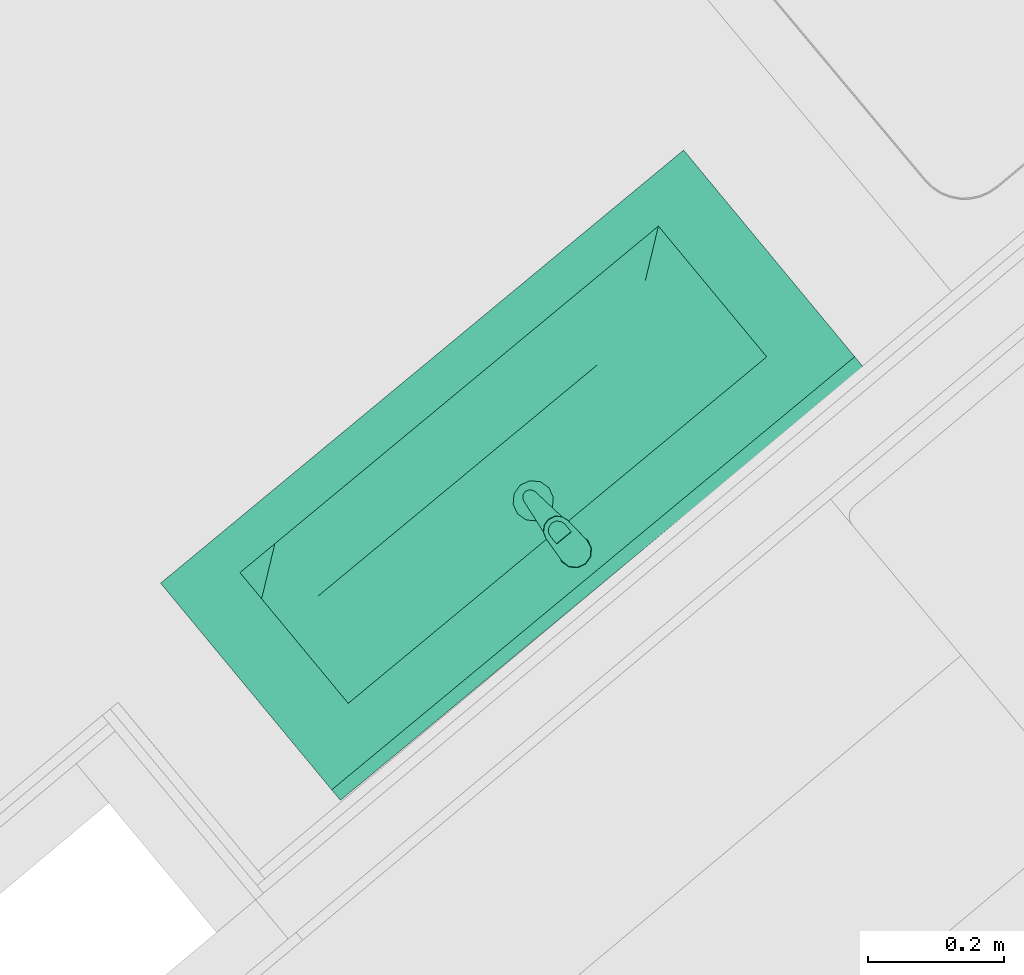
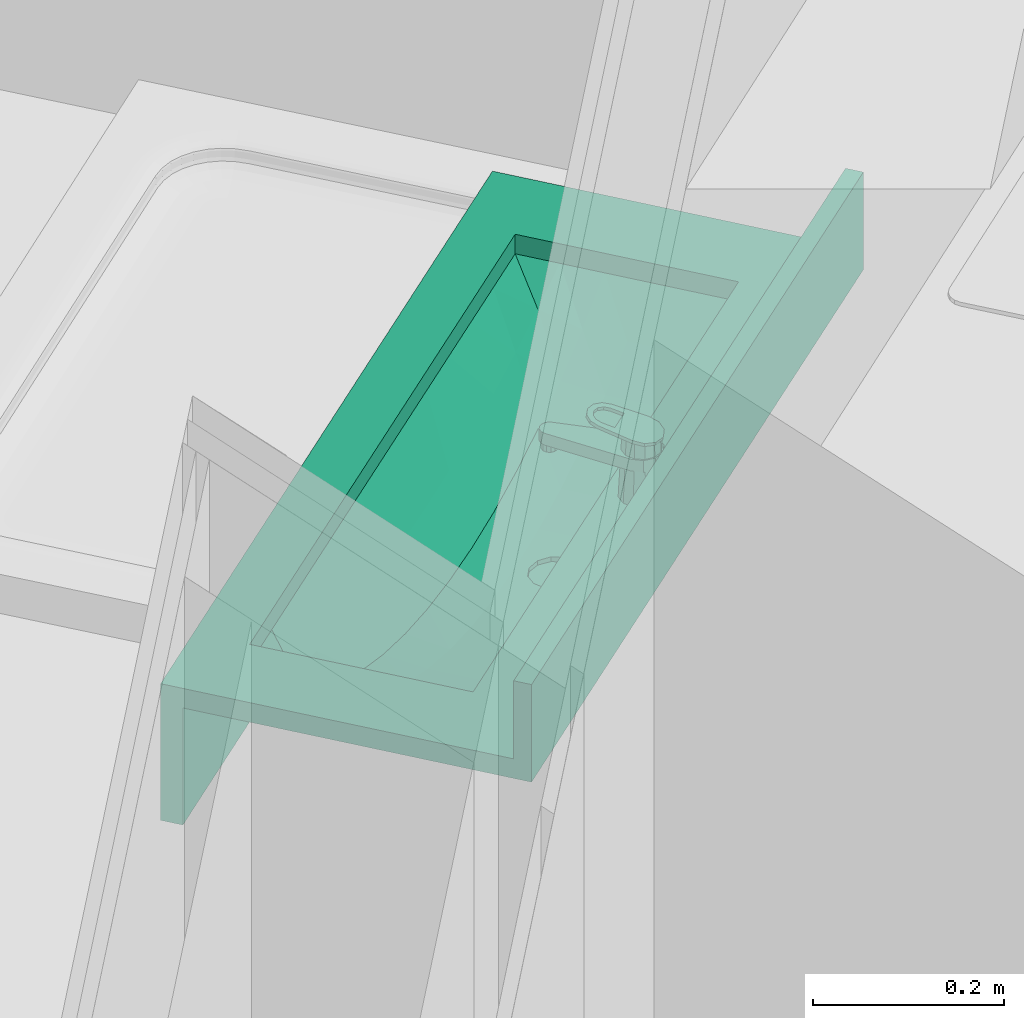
# One storey, part 62 of 67: 1 sanitary terminal.
"""IFC4 building model written with IfcOpenShell, lengths in metres."""

from ifc_helpers import new_model, entity, si_unit, converted_unit, derived_unit, direction, frame, origin_with_axes, place, context, subcontext, project, spatial, polygons, source, transform, mapped, type_object, element, save


model = new_model("IFC4")

# Units and contexts
model_context = context("Model", 3, precision=1e-05, world=origin_with_axes(), true_north=direction((0.0, 1.0)))
body_context = subcontext(model_context, "Body", "Model", "MODEL_VIEW")
ifc_project = project(units=[si_unit("LENGTHUNIT", "METRE"), si_unit("AREAUNIT", "SQUARE_METRE"), si_unit("VOLUMEUNIT", "CUBIC_METRE"), converted_unit("PLANEANGLEUNIT", "DEGREE", entity("IfcPlaneAngleMeasure", 0.0174532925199), si_unit("PLANEANGLEUNIT", "RADIAN"), dimensions=[0, 0, 0, 0, 0, 0, 0]), converted_unit("TIMEUNIT", "Year", entity("IfcTimeMeasure", 31556926.0), si_unit("TIMEUNIT", "SECOND"), dimensions=[0, 0, 1, 0, 0, 0, 0]), si_unit("MASSUNIT", "GRAM", prefix="KILO"), si_unit("THERMODYNAMICTEMPERATUREUNIT", "DEGREE_CELSIUS"), si_unit("LUMINOUSINTENSITYUNIT", "LUMEN"), si_unit("ENERGYUNIT", "JOULE", prefix="MEGA"), derived_unit("THERMALCONDUCTANCEUNIT", [(si_unit("POWERUNIT", "WATT"), 1), (si_unit("LENGTHUNIT", "METRE"), -1), (si_unit("THERMODYNAMICTEMPERATUREUNIT", "KELVIN"), -1)]), derived_unit("SPECIFICHEATCAPACITYUNIT", [(si_unit("ENERGYUNIT", "JOULE"), 1), (si_unit("MASSUNIT", "GRAM", prefix="KILO"), -1), (si_unit("THERMODYNAMICTEMPERATUREUNIT", "KELVIN"), -1)]), derived_unit("MASSDENSITYUNIT", [(si_unit("MASSUNIT", "GRAM", prefix="KILO"), 1), (si_unit("VOLUMEUNIT", "CUBIC_METRE"), -1)])], contexts=[model_context])

# Site, building, storey
site_placement = place(None, frame((-0.00153261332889, -0.00661245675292, 0.0), z_axis=(0.0, 0.0, 1.0), x_axis=(1.0, 0.0, 0.0)))
site = spatial("IfcSite", under=ifc_project, at=site_placement, Name="Site", CompositionType="ELEMENT")
building_placement = place(site_placement, origin_with_axes())
building = spatial("IfcBuilding", under=site, at=building_placement, Name="Building", CompositionType="ELEMENT")
storey_placement = place(building_placement, frame((0.0, 0.0, -0.22), z_axis=(0.0, 0.0, 1.0), x_axis=(1.0, 0.0, 0.0)))
storey = spatial("IfcBuildingStorey", under=building, at=storey_placement, Name="EG", CompositionType="ELEMENT", Elevation=-0.22)

# Sanitary terminal
sanitary_terminal_type = type_object("IfcSanitaryTerminalType", Name="Waschbecken mehrfach 26", PredefinedType="NOTDEFINED")
shared_shape = source(origin_with_axes(), body_context, "Body", "Tessellation", [
    polygons([(-0.5, 0.0, 0.875), (0.5, 0.0, 0.875), (0.5, -0.415119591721, 0.875), (-0.5, -0.415119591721, 0.875), (-0.4, -0.35255979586, 0.875), (0.4, -0.35255979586, 0.875), (0.4, -0.10255979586, 0.875), (-0.4, -0.10255979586, 0.875), (-0.5, 0.0, 0.9), (0.5, 0.0, 0.9), (0.5, -0.415119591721, 0.9), (-0.5, -0.415119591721, 0.9), (-0.4, -0.35255979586, 0.9), (0.4, -0.35255979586, 0.9), (0.4, -0.10255979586, 0.9), (-0.4, -0.10255979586, 0.9)], [[[1, 2, 3, 4], [5, 6, 7, 8]], [[1, 9, 10, 2]], [[2, 10, 11, 3]], [[3, 11, 12, 4]], [[4, 12, 9, 1]], [[13, 14, 6, 5]], [[14, 15, 7, 6]], [[15, 16, 8, 7]], [[16, 13, 5, 8]], [[11, 10, 9, 12], [13, 16, 15, 14]]], closed=True),
    polygons([(-0.5, -0.02, 0.9), (0.5, -0.02, 0.9), (0.5, -0.02, 1.0), (-0.5, -0.02, 1.0), (-0.5, 0.0, 0.9), (0.5, 0.0, 0.9), (0.5, 0.0, 1.0), (-0.5, 0.0, 1.0)], [[[1, 2, 3, 4]], [[1, 5, 6, 2]], [[2, 6, 7, 3]], [[4, 3, 7, 8]], [[5, 1, 4, 8]], [[6, 5, 8, 7]]], closed=True),
    polygons([(-0.5, -0.415119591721, 0.725), (0.5, -0.415119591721, 0.725), (0.5, -0.415119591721, 0.875), (-0.5, -0.415119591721, 0.875), (-0.5, -0.390119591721, 0.725), (0.5, -0.390119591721, 0.725), (0.5, -0.390119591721, 0.875), (-0.5, -0.390119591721, 0.875)], [[[1, 2, 3, 4]], [[1, 5, 6, 2]], [[2, 6, 7, 3]], [[4, 3, 7, 8]], [[5, 1, 4, 8]], [[6, 5, 8, 7]]], closed=True),
    polygons([(0.0, -0.18855104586, 0.775), (-0.015, -0.184531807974, 0.775589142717), (-0.0259807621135, -0.17355104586, 0.776020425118), (-0.03, -0.15855104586, 0.776178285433), (-0.0283946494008, -0.15255979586, 0.776115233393), (-0.0666666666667, -0.15255979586, 0.777618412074), (-0.0666666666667, -0.20255979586, 0.777618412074), (0.0, -0.20255979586, 0.775), (-0.015, -0.132570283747, 0.775589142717), (0.0, -0.12855104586, 0.775), (0.0, -0.10255979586, 0.775), (-0.0666666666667, -0.10255979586, 0.777618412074), (-0.0259807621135, -0.14355104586, 0.776020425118), (-0.133333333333, -0.15255979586, 0.785522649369), (-0.133333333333, -0.20255979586, 0.785522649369), (-0.0666666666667, -0.25255979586, 0.787498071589), (0.0666666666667, -0.15255979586, 0.777618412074), (0.0283946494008, -0.15255979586, 0.776115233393), (0.03, -0.15855104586, 0.776178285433), (0.0259807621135, -0.17355104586, 0.776020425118), (0.015, -0.184531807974, 0.775589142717), (0.0666666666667, -0.20255979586, 0.777618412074), (0.015, -0.132570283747, 0.775589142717), (0.0259807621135, -0.14355104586, 0.776020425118), (0.0666666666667, -0.10255979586, 0.777618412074), (0.2, -0.10255979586, 0.798864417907), (0.266666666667, -0.10255979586, 0.81791333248), (0.333333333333, -0.10255979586, 0.843086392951), (0.4, -0.10255979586, 0.875), (-0.4, -0.10255979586, 0.875), (-0.333333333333, -0.10255979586, 0.843086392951), (-0.266666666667, -0.10255979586, 0.81791333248), (-0.2, -0.10255979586, 0.798864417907), (-0.133333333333, -0.10255979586, 0.785522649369), (0.133333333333, -0.10255979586, 0.785522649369), (-0.2, -0.15255979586, 0.798864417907), (-0.2, -0.20255979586, 0.798864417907), (-0.133333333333, -0.25255979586, 0.794673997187), (0.0, -0.25255979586, 0.785118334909), (0.133333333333, -0.20255979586, 0.785522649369), (0.133333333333, -0.15255979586, 0.785522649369), (0.266666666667, -0.15255979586, 0.81791333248), (0.2, -0.15255979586, 0.798864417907), (0.333333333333, -0.15255979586, 0.843086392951), (0.4, -0.15255979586, 0.875), (-0.333333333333, -0.15255979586, 0.843086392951), (-0.4, -0.15255979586, 0.875), (-0.266666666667, -0.15255979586, 0.81791333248), (-0.266666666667, -0.20255979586, 0.81791333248), (-0.2, -0.25255979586, 0.80675915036), (-0.0666666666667, -0.30255979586, 0.828578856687), (-0.133333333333, -0.30255979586, 0.832507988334), (0.0666666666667, -0.25255979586, 0.787498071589), (0.2, -0.20255979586, 0.798864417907), (0.266666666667, -0.20255979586, 0.81791333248), (0.333333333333, -0.20255979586, 0.843086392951), (0.4, -0.20255979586, 0.875), (0.4, -0.25255979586, 0.875), (0.4, -0.30255979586, 0.875), (0.4, -0.35255979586, 0.875), (-0.4, -0.25255979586, 0.875), (-0.4, -0.20255979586, 0.875), (-0.4, -0.35255979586, 0.875), (-0.4, -0.30255979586, 0.875), (-0.333333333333, -0.20255979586, 0.843086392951), (-0.266666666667, -0.25255979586, 0.823952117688), (-0.2, -0.30255979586, 0.839076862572), (0.0, -0.30255979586, 0.827271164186), (0.133333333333, -0.25255979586, 0.794673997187), (0.2, -0.25255979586, 0.80675915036), (0.266666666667, -0.25255979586, 0.823952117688), (0.333333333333, -0.25255979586, 0.846554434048), (0.333333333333, -0.30255979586, 0.860271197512), (0.333333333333, -0.35255979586, 0.875), (-0.333333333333, -0.30255979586, 0.860271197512), (-0.333333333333, -0.25255979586, 0.846554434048), (-0.266666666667, -0.30255979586, 0.848316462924), (-0.0666666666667, -0.35255979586, 0.875), (-0.133333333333, -0.35255979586, 0.875), (-0.2, -0.35255979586, 0.875), (0.0666666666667, -0.30255979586, 0.828578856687), (-0.266666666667, -0.35255979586, 0.875), (-0.333333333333, -0.35255979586, 0.875), (0.266666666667, -0.35255979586, 0.875), (0.2, -0.35255979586, 0.875), (0.133333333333, -0.35255979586, 0.875), (0.0666666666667, -0.35255979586, 0.875), (0.0, -0.35255979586, 0.875), (0.133333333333, -0.30255979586, 0.832507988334), (0.2, -0.30255979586, 0.839076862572), (0.266666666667, -0.30255979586, 0.848316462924)], [[[1, 2, 3, 4, 5, 6, 7, 8]], [[9, 10, 11, 12, 6, 5, 13]], [[7, 6, 14, 15]], [[16, 8, 7]], [[17, 18, 19, 20, 21, 1, 8, 22]], [[10, 23, 24, 18, 17, 25, 11]], [[26, 27, 28, 29, 30, 31, 32, 33, 34, 12, 11, 25, 35]], [[6, 12, 34, 14]], [[15, 14, 36, 37]], [[38, 7, 15]], [[16, 39, 8]], [[38, 16, 7]], [[39, 22, 8]], [[40, 41, 17, 22]], [[41, 35, 25, 17]], [[42, 27, 26, 43]], [[44, 28, 27, 42]], [[45, 29, 28, 44]], [[46, 31, 30, 47]], [[48, 32, 31, 46]], [[36, 33, 32, 48]], [[14, 34, 33, 36]], [[43, 26, 35, 41]], [[37, 36, 48, 49]], [[50, 15, 37]], [[50, 38, 15]], [[51, 39, 16]], [[52, 16, 38]], [[39, 53, 22]], [[54, 43, 41, 40]], [[53, 40, 22]], [[55, 42, 43, 54]], [[56, 44, 42, 55]], [[57, 58, 59, 60, 29, 45]], [[57, 45, 44, 56]], [[61, 62, 47, 30, 63, 64]], [[65, 46, 47, 62]], [[49, 48, 46, 65]], [[66, 37, 49]], [[66, 50, 37]], [[67, 38, 50]], [[51, 68, 39]], [[52, 51, 16]], [[67, 52, 38]], [[68, 53, 39]], [[69, 54, 40]], [[53, 69, 40]], [[70, 55, 54]], [[71, 56, 55]], [[72, 58, 57]], [[73, 59, 58]], [[74, 60, 59]], [[72, 57, 56]], [[61, 65, 62]], [[63, 75, 64]], [[64, 76, 61]], [[76, 49, 65]], [[76, 66, 49]], [[77, 50, 66]], [[77, 67, 50]], [[78, 68, 51]], [[79, 51, 52]], [[80, 52, 67]], [[68, 81, 53]], [[69, 70, 54]], [[81, 69, 53]], [[70, 71, 55]], [[71, 72, 56]], [[73, 58, 72]], [[74, 59, 73]], [[80, 82, 83, 63, 60, 74, 84, 85, 86, 87, 88, 78, 79]], [[61, 76, 65]], [[63, 83, 75]], [[64, 75, 76]], [[75, 66, 76]], [[75, 77, 66]], [[82, 67, 77]], [[78, 88, 68]], [[79, 78, 51]], [[80, 79, 52]], [[82, 80, 67]], [[88, 81, 68]], [[89, 70, 69]], [[81, 89, 69]], [[90, 71, 70]], [[91, 72, 71]], [[91, 73, 72]], [[84, 74, 73]], [[83, 82, 77]], [[85, 84, 91]], [[86, 85, 90]], [[87, 86, 89]], [[88, 87, 81]], [[83, 77, 75]], [[89, 90, 70]], [[87, 89, 81]], [[90, 91, 71]], [[84, 73, 91]], [[85, 91, 90]], [[86, 90, 89]]], closed=False),
    polygons([(0.03, -0.15855104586, 0.776178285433), (0.0259807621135, -0.17355104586, 0.776020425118), (0.0259807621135, -0.17355104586, 0.77), (0.03, -0.15855104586, 0.77), (0.015, -0.184531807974, 0.775589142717), (0.015, -0.184531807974, 0.77), (0.0, -0.12855104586, 0.77), (0.015, -0.132570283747, 0.77), (0.0259807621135, -0.14355104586, 0.77), (0.0, -0.18855104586, 0.77), (-0.015, -0.184531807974, 0.77), (-0.0259807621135, -0.17355104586, 0.77), (-0.03, -0.15855104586, 0.77), (-0.0259807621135, -0.14355104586, 0.77), (-0.015, -0.132570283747, 0.77), (0.0259807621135, -0.14355104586, 0.776020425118), (0.0, -0.18855104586, 0.775), (0.0, -0.12855104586, 0.775), (0.015, -0.132570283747, 0.775589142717), (-0.015, -0.184531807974, 0.775589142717), (-0.0259807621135, -0.17355104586, 0.776020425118), (-0.03, -0.15855104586, 0.776178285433), (-0.0259807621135, -0.14355104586, 0.776020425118), (-0.015, -0.132570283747, 0.775589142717)], [[[1, 2, 3, 4]], [[2, 5, 6, 3]], [[7, 8, 9, 4, 3, 6, 10, 11, 12, 13, 14, 15]], [[16, 1, 4, 9]], [[5, 17, 10, 6]], [[18, 19, 8, 7]], [[19, 16, 9, 8]], [[17, 20, 11, 10]], [[20, 21, 12, 11]], [[21, 22, 13, 12]], [[22, 23, 14, 13]], [[23, 24, 15, 14]], [[24, 18, 7, 15]]], closed=False),
    polygons([(0.0125, -0.0409091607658, 0.9), (0.0, -0.0375597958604, 0.9), (0.0, -0.0413578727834, 0.975961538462), (0.0105873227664, -0.0442220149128, 0.976507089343), (0.0216506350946, -0.0500597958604, 0.9), (0.025, -0.0625597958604, 0.9), (0.0216506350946, -0.0750597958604, 0.9), (0.0125, -0.084210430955, 0.9), (0.0, -0.0875597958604, 0.9), (-0.0125, -0.084210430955, 0.9), (-0.0216506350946, -0.0750597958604, 0.9), (-0.025, -0.0625597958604, 0.9), (-0.0216506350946, -0.0500597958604, 0.9), (-0.0125, -0.0409091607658, 0.9), (-0.0105873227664, -0.0442220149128, 0.976507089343), (-0.0182735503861, -0.0520095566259, 0.977990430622), (-0.021, -0.0625597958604, 0.98), (-0.0181003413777, -0.0730100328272, 0.981990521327), (-0.0104141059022, -0.0805975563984, 0.983435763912), (0.0, -0.0833616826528, 0.983962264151), (0.0104141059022, -0.0805975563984, 0.983435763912), (0.0181003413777, -0.0730100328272, 0.981990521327), (0.021, -0.0625597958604, 0.98), (0.0182735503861, -0.0520095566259, 0.977990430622)], [[[1, 2, 3, 4]], [[1, 5, 6, 7, 8, 9, 10, 11, 12, 13, 14, 2]], [[2, 14, 15, 3]], [[4, 3, 15, 16, 17, 18, 19, 20, 21, 22, 23, 24]], [[5, 1, 4, 24]], [[6, 5, 24, 23]], [[7, 6, 23, 22]], [[8, 7, 22, 21]], [[9, 8, 21, 20]], [[10, 9, 20, 19]], [[11, 10, 19, 18]], [[12, 11, 18, 17]], [[13, 12, 17, 16]], [[14, 13, 16, 15]]], closed=True),
    polygons([(0.009, -0.16555979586, 0.935), (0.00779422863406, -0.16105979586, 0.935), (0.00779422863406, -0.16105979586, 0.945), (0.009, -0.16555979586, 0.945), (0.00779422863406, -0.17005979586, 0.935), (0.0045, -0.173354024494, 0.935), (0.0, -0.17455979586, 0.935), (-0.0045, -0.173354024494, 0.935), (-0.00779422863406, -0.17005979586, 0.935), (-0.009, -0.16555979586, 0.935), (-0.00779422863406, -0.16105979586, 0.935), (-0.0045, -0.157765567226, 0.935), (0.0, -0.15655979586, 0.935), (0.0045, -0.157765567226, 0.935), (0.0045, -0.157765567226, 0.945), (0.0, -0.15655979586, 0.945), (-0.0045, -0.157765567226, 0.945), (-0.00779422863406, -0.16105979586, 0.945), (-0.009, -0.16555979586, 0.945), (-0.00779422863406, -0.17005979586, 0.945), (-0.0045, -0.173354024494, 0.945), (0.0, -0.17455979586, 0.945), (0.0045, -0.173354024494, 0.945), (0.00779422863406, -0.17005979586, 0.945)], [[[1, 2, 3, 4]], [[1, 5, 6, 7, 8, 9, 10, 11, 12, 13, 14, 2]], [[2, 14, 15, 3]], [[4, 3, 15, 16, 17, 18, 19, 20, 21, 22, 23, 24]], [[5, 1, 4, 24]], [[6, 5, 24, 23]], [[7, 6, 23, 22]], [[8, 7, 22, 21]], [[9, 8, 21, 20]], [[10, 9, 20, 19]], [[11, 10, 19, 18]], [[12, 11, 18, 17]], [[13, 12, 17, 16]], [[14, 13, 16, 15]]], closed=True),
    polygons([(-0.0128717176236, -0.0423034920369, 0.96), (-0.021727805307, -0.0523665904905, 0.96), (-0.0238054, -0.0656096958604, 0.96), (-0.010911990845, -0.166948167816, 0.96), (-0.00902887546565, -0.17184299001, 0.96), (-0.00509332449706, -0.175309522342, 0.96), (3.62679860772e-08, -0.176559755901, 0.96), (0.00509338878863, -0.175309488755, 0.96), (0.00902891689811, -0.171842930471, 0.96), (0.010912, -0.16694809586, 0.96), (0.0238053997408, -0.0656096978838, 0.96), (0.0217278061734, -0.0523665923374, 0.96), (0.0128717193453, -0.042303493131, 0.96), (1.01998896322e-09, -0.0385598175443, 0.96), (0.011, -0.0435072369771, 0.96), (0.0190525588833, -0.0515597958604, 0.96), (0.022, -0.0625597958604, 0.96), (0.0190525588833, -0.0735597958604, 0.96), (0.011, -0.0816123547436, 0.96), (0.0, -0.0845597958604, 0.96), (-0.011, -0.0816123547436, 0.96), (-0.0190525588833, -0.0735597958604, 0.96), (-0.022, -0.0625597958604, 0.96), (-0.0190525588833, -0.0515597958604, 0.96), (-0.011, -0.0435072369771, 0.96), (0.0, -0.0405597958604, 0.96), (-0.021727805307, -0.0523665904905, 0.945), (-0.0128717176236, -0.0423034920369, 0.945), (-0.0238054, -0.0656096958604, 0.945), (-0.010911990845, -0.166948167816, 0.945), (-0.00902887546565, -0.17184299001, 0.945), (-0.00509332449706, -0.175309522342, 0.945), (3.62679860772e-08, -0.176559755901, 0.945), (0.00509338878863, -0.175309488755, 0.945), (0.00902891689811, -0.171842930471, 0.945), (0.010912, -0.16694809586, 0.945), (0.0238053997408, -0.0656096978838, 0.945), (0.0217278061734, -0.0523665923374, 0.945), (0.0128717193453, -0.042303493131, 0.945), (1.01998896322e-09, -0.0385598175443, 0.945), (0.011375, -0.0428577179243, 0.945), (0.0197020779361, -0.0511847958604, 0.945), (0.02275, -0.0625597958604, 0.945), (0.0197020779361, -0.0739347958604, 0.945), (0.011375, -0.0822618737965, 0.945), (0.0, -0.0853097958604, 0.945), (-0.011375, -0.0822618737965, 0.945), (-0.0197020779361, -0.0739347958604, 0.945), (-0.02275, -0.0625597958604, 0.945), (-0.0197020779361, -0.0511847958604, 0.945), (-0.011375, -0.0428577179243, 0.945), (0.0, -0.0398097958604, 0.945)], [[[1, 2, 3, 4, 5, 6, 7, 8, 9, 10, 11, 12, 13, 14], [15, 16, 17, 18, 19, 20, 21, 22, 23, 24, 25, 26]], [[27, 2, 1, 28]], [[29, 3, 2, 27]], [[30, 4, 3, 29]], [[31, 5, 4, 30]], [[32, 6, 5, 31]], [[33, 7, 6, 32]], [[34, 8, 7, 33]], [[35, 9, 8, 34]], [[36, 10, 9, 35]], [[37, 11, 10, 36]], [[38, 12, 11, 37]], [[39, 13, 12, 38]], [[40, 14, 13, 39]], [[28, 1, 14, 40]], [[41, 42, 16, 15]], [[42, 43, 17, 16]], [[43, 44, 18, 17]], [[44, 45, 19, 18]], [[45, 46, 20, 19]], [[21, 20, 46, 47]], [[22, 21, 47, 48]], [[23, 22, 48, 49]], [[24, 23, 49, 50]], [[25, 24, 50, 51]], [[51, 52, 26, 25]], [[52, 41, 15, 26]], [[33, 32, 31, 30, 29, 27, 28, 40, 39, 38, 37, 36, 35, 34], [45, 44, 43, 42, 41, 52, 51, 50, 49, 48, 47, 46]]], closed=True),
    polygons([(0.023893, -0.0642523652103, 0.980322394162), (0.0212964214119, -0.0517850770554, 0.977947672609), (0.0212964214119, -0.0510366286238, 0.981877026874), (0.023893, -0.0635039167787, 0.984251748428), (0.0209459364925, -0.104396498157, 0.987968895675), (0.0176631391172, -0.114074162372, 0.989812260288), (0.0100614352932, -0.121023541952, 0.991135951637), (-4.42652908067e-07, -0.123545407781, 0.991616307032), (-0.0100622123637, -0.121023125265, 0.991135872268), (-0.0176636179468, -0.114073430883, 0.989812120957), (-0.020946, -0.104395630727, 0.987968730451), (-0.023893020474, -0.0642520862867, 0.980322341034), (-0.0212962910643, -0.0517848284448, 0.977947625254), (-0.0124716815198, -0.0424685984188, 0.976173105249), (1.42337785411e-07, -0.0390278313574, 0.975517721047), (0.0124719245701, -0.0424687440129, 0.976173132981), (0.014, -0.0881005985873, 0.984864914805), (-0.014, -0.0881005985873, 0.984864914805), (-0.014, -0.102916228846, 0.987686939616), (-0.012124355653, -0.109792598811, 0.988996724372), (-0.007, -0.114826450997, 0.989955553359), (0.0, -0.116668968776, 0.990306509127), (0.007, -0.114826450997, 0.989955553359), (0.012124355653, -0.109792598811, 0.988996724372), (0.014, -0.102916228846, 0.987686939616), (0.0124719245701, -0.0417202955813, 0.980102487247), (1.42337785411e-07, -0.0382793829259, 0.979447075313), (-0.0124716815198, -0.0417201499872, 0.980102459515), (-0.0212962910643, -0.0510363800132, 0.98187697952), (-0.023893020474, -0.0635036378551, 0.984251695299), (-0.020946, -0.103647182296, 0.991898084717), (-0.0176636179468, -0.113324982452, 0.993741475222), (-0.0100622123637, -0.120274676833, 0.995065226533), (-4.42652908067e-07, -0.122796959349, 0.995545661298), (0.0100614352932, -0.120275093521, 0.995065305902), (0.0176631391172, -0.11332571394, 0.993741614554), (0.0209459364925, -0.103648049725, 0.991898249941), (0.014, -0.0873521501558, 0.988794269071), (0.014, -0.102167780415, 0.991616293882), (0.012124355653, -0.10904415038, 0.992926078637), (0.007, -0.114078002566, 0.993884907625), (0.0, -0.115920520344, 0.994235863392), (-0.007, -0.114078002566, 0.993884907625), (-0.012124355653, -0.10904415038, 0.992926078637), (-0.014, -0.102167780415, 0.991616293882), (-0.014, -0.0873521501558, 0.988794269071)], [[[1, 2, 3, 4]], [[1, 5, 6, 7, 8, 9, 10, 11, 12, 13, 14, 15, 16, 2], [17, 18, 19, 20, 21, 22, 23, 24, 25]], [[2, 16, 26, 3]], [[4, 3, 26, 27, 28, 29, 30, 31, 32, 33, 34, 35, 36, 37], [38, 39, 40, 41, 42, 43, 44, 45, 46]], [[5, 1, 4, 37]], [[6, 5, 37, 36]], [[7, 6, 36, 35]], [[8, 7, 35, 34]], [[9, 8, 34, 33]], [[10, 9, 33, 32]], [[11, 10, 32, 31]], [[12, 11, 31, 30]], [[13, 12, 30, 29]], [[14, 13, 29, 28]], [[15, 14, 28, 27]], [[16, 15, 27, 26]], [[18, 17, 38, 46]], [[19, 18, 46, 45]], [[20, 19, 45, 44]], [[21, 20, 44, 43]], [[22, 21, 43, 42]], [[23, 22, 42, 41]], [[24, 23, 41, 40]], [[25, 24, 40, 39]], [[17, 25, 39, 38]]], closed=True),
])
sanitary_terminal_placement = place(storey_placement, frame((7.60632962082, 24.105104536, 0.145), z_axis=(0.0, 0.0, 1.0), x_axis=(-0.770210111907, -0.637790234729, 0.0)))
element("IfcSanitaryTerminal", 1, at=sanitary_terminal_placement, inside=storey, type_object=sanitary_terminal_type, Name="Objekt-0009", PredefinedType="NOTDEFINED", context=body_context, shape_type="MappedRepresentation", body=[
    mapped(shared_shape, transform((0.0, 0.0, 0.0))),
])

save(model, "model.ifc")
